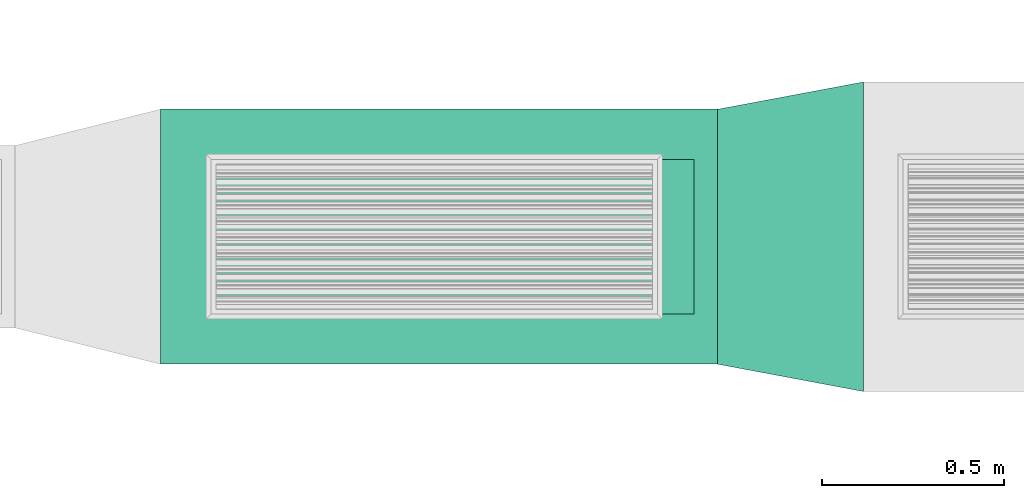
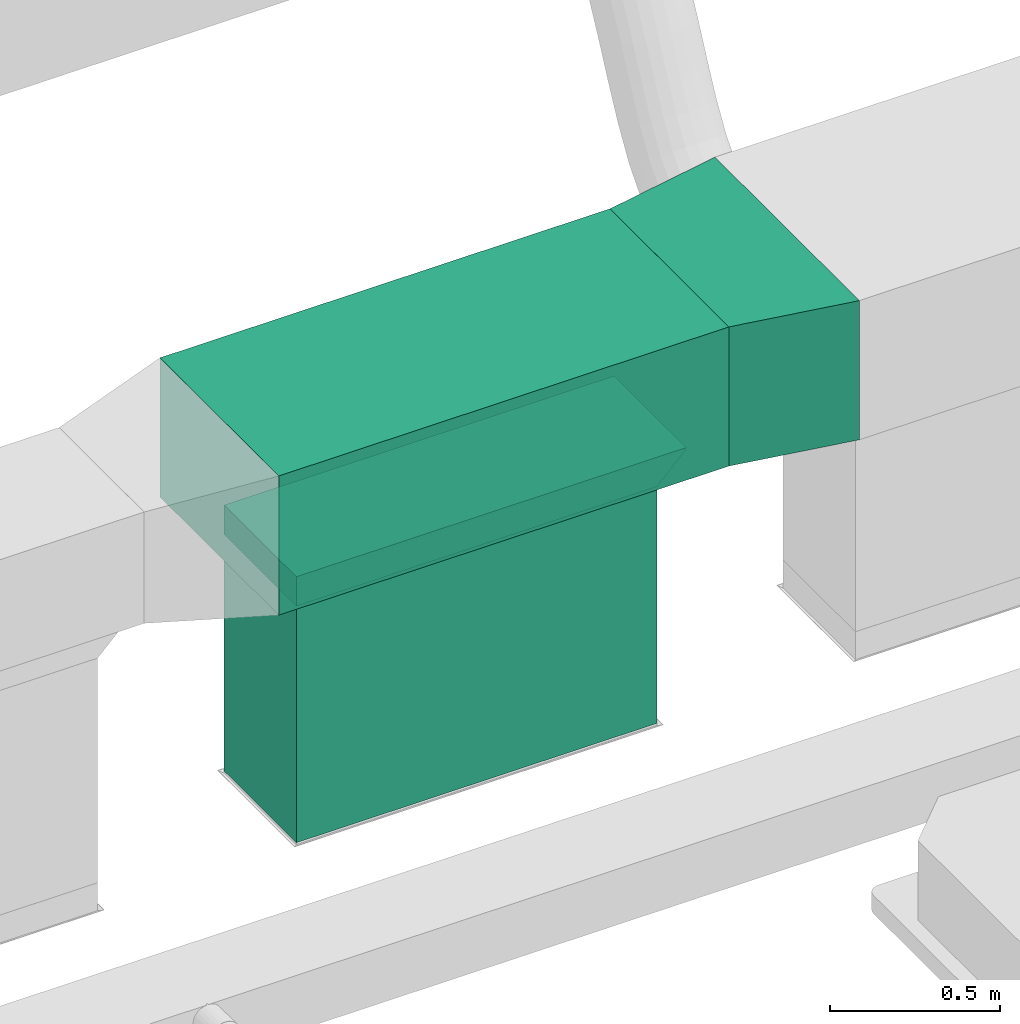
# One storey, part 5 of 60: 2 flow fittings, 2 flow segments.
"""IFC2X3 building model written with IfcOpenShell, lengths in millimetres."""

import ifcopenshell
import ifcopenshell.guid

model = None  # the IFC model being written
_history = None  # IfcOwnerHistory: only IFC2X3 demands one
_inside = {}  # id of a spatial element -> (the spatial element, [elements in it])
_under = {}  # id of a project, library or spatial element -> (it, [spatial elements below it])
_declared = {}  # id of a project -> (the project, [libraries it declares])
_typed = {}  # id of a type object -> (the type object, [elements of that type])
_made_of = {}  # id of a material, layer set ... -> (it, [elements and type objects made of it])


def new_model(schema):
    """Start an empty IFC model of exactly this schema.

    Asked for "IFC4X3", IfcOpenShell would pick the latest addendum, in which some entities
    have other attributes; the version numbers below select the first issue.
    IFC2X3 requires an IfcOwnerHistory on every rooted entity: one is made here for all.
    """
    global model, _history
    if schema == "IFC4X3":
        model = ifcopenshell.file(schema_version=(4, 3, 0, 0))
    else:
        model = ifcopenshell.file(schema=schema)
    _inside.clear()
    _under.clear()
    _declared.clear()
    _typed.clear()
    _made_of.clear()
    _history = None
    if model.schema == "IFC2X3":
        org = make("IfcOrganization", Name="unknown")
        user = make(
            "IfcPersonAndOrganization",
            ThePerson=make("IfcPerson", FamilyName="unknown"),
            TheOrganization=org,
        )
        app = make(
            "IfcApplication",
            ApplicationDeveloper=org,
            Version="unknown",
            ApplicationFullName="unknown",
            ApplicationIdentifier="unknown",
        )
        _history = make(
            "IfcOwnerHistory",
            OwningUser=user,
            OwningApplication=app,
            ChangeAction="ADDED",
            CreationDate=0,
        )
    return model


def make(cls, **values):
    """One entity of the class cls with the attributes given. An attribute that is None is left unset."""
    return model.create_entity(
        cls, **{name: value for name, value in values.items() if value is not None}
    )


def entity(cls, *values):
    """Any entity or typed value of the class cls, its attributes in the order of the schema. None: left unset."""
    e = model.create_entity(cls)
    for i, value in enumerate(values):
        if value is not None:
            e[i] = value
    return e


def rooted(cls, **values):
    """An entity with a GlobalId (a new one), such as an element, a storey or a relation."""
    return make(cls, GlobalId=ifcopenshell.guid.new(), OwnerHistory=_history, **values)


def si_unit(unit_type, name, prefix=None):
    """IfcSIUnit, for example si_unit("LENGTHUNIT", "METRE", prefix="MILLI")."""
    return make("IfcSIUnit", UnitType=unit_type, Prefix=prefix, Name=name)


def converted_unit(unit_type, name, factor, base, dimensions=None, offset=None):
    """IfcConversionBasedUnit, such as the inch: factor (a typed value) times the base unit."""
    return make(
        "IfcConversionBasedUnit"
        if offset is None
        else "IfcConversionBasedUnitWithOffset",
        ConversionOffset=offset,
        Dimensions=None
        if dimensions is None
        else entity("IfcDimensionalExponents", *dimensions),
        UnitType=unit_type,
        Name=name,
        ConversionFactor=make(
            "IfcMeasureWithUnit", ValueComponent=factor, UnitComponent=base
        ),
    )


def derived_unit(unit_type, elements):
    """IfcDerivedUnit: a product of units, each with its exponent."""
    return make(
        "IfcDerivedUnit",
        Elements=[
            make("IfcDerivedUnitElement", Unit=unit, Exponent=power)
            for unit, power in elements
        ],
        UnitType=unit_type,
    )


def assignment(units):
    """IfcUnitAssignment: the units of a project."""
    return None if units is None else make("IfcUnitAssignment", Units=units)


def point(xyz):
    """IfcCartesianPoint."""
    return None if xyz is None else make("IfcCartesianPoint", Coordinates=xyz)


def direction(xyz):
    """IfcDirection."""
    return None if xyz is None else make("IfcDirection", DirectionRatios=xyz)


def frame(location, z_axis=None, x_axis=None):
    """IfcAxis2Placement3D, a coordinate frame: its origin and axes. An axis left out is left unset."""
    return make(
        "IfcAxis2Placement3D",
        Location=point(location),
        Axis=direction(z_axis),
        RefDirection=direction(x_axis),
    )


def frame_2d(location, x_axis=None):
    """IfcAxis2Placement2D, a coordinate frame in the plane: its origin and x axis."""
    return make(
        "IfcAxis2Placement2D", Location=point(location), RefDirection=direction(x_axis)
    )


def origin():
    """The frame at (0, 0, 0) with its axes left unset."""
    return frame((0.0, 0.0, 0.0))


def origin_2d_with_axis():
    """The frame at (0, 0) in the plane with the x axis (1, 0) written out."""
    return frame_2d((0.0, 0.0), x_axis=(1.0, 0.0))


def place(relative_to, where):
    """IfcLocalPlacement: puts the frame where relative to a parent placement (None: the world)."""
    return make(
        "IfcLocalPlacement", PlacementRelTo=relative_to, RelativePlacement=where
    )


def context(
    kind, dimensions, precision=None, world=None, true_north=None, identifier=None
):
    """IfcGeometricRepresentationContext, for example the 3D "Model" context."""
    return make(
        "IfcGeometricRepresentationContext",
        ContextIdentifier=identifier,
        ContextType=kind,
        CoordinateSpaceDimension=dimensions,
        Precision=precision,
        WorldCoordinateSystem=world,
        TrueNorth=true_north,
    )


def subcontext(parent, identifier, kind, view, scale=None):
    """IfcGeometricRepresentationSubContext, for example "Body" below "Model"."""
    return make(
        "IfcGeometricRepresentationSubContext",
        ContextIdentifier=identifier,
        ContextType=kind,
        ParentContext=parent,
        TargetScale=scale,
        TargetView=view,
    )


def project(units=None, contexts=None):
    """IfcProject with its units and contexts."""
    return rooted(
        "IfcProject",
        Name="project",
        RepresentationContexts=contexts,
        UnitsInContext=assignment(units),
    )


def spatial(cls, under=None, at=None, **own):
    """A site, building, storey or space (cls), placed at a placement, below another one or the project."""
    s = rooted(cls, ObjectPlacement=at, **own)
    if under is not None:
        _under.setdefault(under.id(), (under, []))[1].append(s)
    return s


def polyline(points):
    """IfcPolyline through the points."""
    return make("IfcPolyline", Points=[point(p) for p in points])


def profile(cls, at=None, kind="AREA", **sizes):
    """A parametric profile (cls). Its sizes go by their IFC names, for example OverallWidth=200.0."""
    return make(cls, ProfileType=kind, Position=at, **sizes)


def rectangle(**sizes):
    """IfcRectangleProfileDef."""
    return profile("IfcRectangleProfileDef", **sizes)


def outline(outer, holes=None, kind="AREA"):
    """IfcArbitraryClosedProfileDef: a profile drawn as a closed curve; with holes, ...WithVoids."""
    if holes is None:
        return make("IfcArbitraryClosedProfileDef", ProfileType=kind, OuterCurve=outer)
    return make(
        "IfcArbitraryProfileDefWithVoids",
        ProfileType=kind,
        OuterCurve=outer,
        InnerCurves=holes,
    )


def extrude(swept, where, along, depth):
    """IfcExtrudedAreaSolid: the profile swept, set in the frame where, extruded along a direction by depth."""
    return make(
        "IfcExtrudedAreaSolid",
        SweptArea=swept,
        Position=where,
        ExtrudedDirection=direction(along),
        Depth=depth,
    )


def shape(context_of_items, identifier, shape_type, items):
    """IfcShapeRepresentation: the items that make up one representation, for example the "Body"."""
    return make(
        "IfcShapeRepresentation",
        ContextOfItems=context_of_items,
        RepresentationIdentifier=identifier,
        RepresentationType=shape_type,
        Items=items,
    )


def source(mapping_origin, context_of_items, identifier, shape_type, items):
    """IfcRepresentationMap: a shape defined once, which mapped items show again and again."""
    return make(
        "IfcRepresentationMap",
        MappingOrigin=mapping_origin,
        MappedRepresentation=shape(context_of_items, identifier, shape_type, items),
    )


def transform(
    local_origin,
    x_axis=None,
    y_axis=None,
    z_axis=None,
    scale=None,
    scale2=None,
    scale3=None,
    uniform=True,
):
    """IfcCartesianTransformationOperator3D, or its non-uniform kind. x_axis, y_axis, z_axis: its Axis1, 2, 3."""
    if uniform:
        return make(
            "IfcCartesianTransformationOperator3D",
            Axis1=direction(x_axis),
            Axis2=direction(y_axis),
            LocalOrigin=point(local_origin),
            Scale=scale,
            Axis3=direction(z_axis),
        )
    return make(
        "IfcCartesianTransformationOperator3DnonUniform",
        Axis1=direction(x_axis),
        Axis2=direction(y_axis),
        LocalOrigin=point(local_origin),
        Scale=scale,
        Axis3=direction(z_axis),
        Scale2=scale2,
        Scale3=scale3,
    )


def mapped(mapping_source, mapping_target):
    """IfcMappedItem: shows the shape of a source again, moved by a transform."""
    return make(
        "IfcMappedItem", MappingSource=mapping_source, MappingTarget=mapping_target
    )


def material(Name=None, Category=None):
    """IfcMaterial."""
    return make("IfcMaterial", Name=Name, Category=Category)


def made_of(thing, what):
    """Note that an element or type object is made of a material, layer set ...; save() writes the relation."""
    if what is not None:
        _made_of.setdefault(what.id(), (what, []))[1].append(thing)
    return thing


def type_object(cls, material=None, **own):
    """A type object (cls), such as IfcWallType, which elements share."""
    return made_of(rooted(cls, **own), material)


def type_shapes(of_type, sources):
    """Give a type object the sources (RepresentationMaps) that its elements show as mapped items."""
    of_type.RepresentationMaps = sources


def element(
    cls,
    number,
    at=None,
    inside=None,
    cuts=None,
    type_object=None,
    material=None,
    context=None,
    identifier="Body",
    shape_type=None,
    held_by="IfcProductDefinitionShape",
    body=None,
    shapes=None,
    **own,
):
    """One element of the class cls, such as IfcWall. Its Tag is "e" and its number.

    at: its placement. inside: the storey or other place that contains it. cuts: it is an
    opening in that element (IfcRelVoidsElement). A single representation is given by context,
    identifier, shape_type and body (its items); several are given by shapes. held_by: the class
    of the entity that holds the representations. save() writes the other relations.
    """
    e = rooted(cls, Tag="e%d" % number, ObjectPlacement=at, **own)
    if body is not None:
        shapes = [shape(context, identifier, shape_type, body)]
    if shapes is not None:
        e.Representation = make(held_by, Representations=shapes)
    if inside is not None:
        _inside.setdefault(inside.id(), (inside, []))[1].append(e)
    if cuts is not None:
        rooted(
            "IfcRelVoidsElement", RelatingBuildingElement=cuts, RelatedOpeningElement=e
        )
    if type_object is not None:
        _typed.setdefault(type_object.id(), (type_object, []))[1].append(e)
    return made_of(e, material)


def aggregate(whole, parts):
    """IfcRelAggregates: a whole, such as a stair, and the parts it consists of."""
    return rooted("IfcRelAggregates", RelatingObject=whole, RelatedObjects=parts)


def save(model, path):
    """Write the relations noted so far, then the file.

    IfcRelAggregates (storeys below a building ...), IfcRelContainedInSpatialStructure (elements
    in a storey), IfcRelDefinesByType, IfcRelAssociatesMaterial and IfcRelDeclares: one each for
    every whole, place, type object, material and project.
    """
    for whole, parts in _under.values():
        aggregate(whole, parts)
    for where, things in _inside.values():
        rooted(
            "IfcRelContainedInSpatialStructure",
            RelatedElements=things,
            RelatingStructure=where,
        )
    for kind, things in _typed.values():
        rooted("IfcRelDefinesByType", RelatedObjects=things, RelatingType=kind)
    for what, things in _made_of.values():
        rooted("IfcRelAssociatesMaterial", RelatedObjects=things, RelatingMaterial=what)
    for by, libraries in _declared.values():
        rooted("IfcRelDeclares", RelatingContext=by, RelatedDefinitions=libraries)
    model.write(path)


model = new_model("IFC2X3")

# Units and contexts
model_context = context("Model", 3, precision=0.01, world=origin(), true_north=direction((6.123233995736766e-17, 1.0)))
body_context = subcontext(model_context, "Body", "Model", "MODEL_VIEW")
ifc_project = project(units=[si_unit("LENGTHUNIT", "METRE", prefix="MILLI"), converted_unit("PLANEANGLEUNIT", "DEGREE", entity("IfcPlaneAngleMeasure", 0.017453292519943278), si_unit("PLANEANGLEUNIT", "RADIAN"), dimensions=[0, 0, 0, 0, 0, 0, 0]), si_unit("AREAUNIT", "SQUARE_METRE"), derived_unit("THERMALTRANSMITTANCEUNIT", [(si_unit("MASSUNIT", "GRAM", prefix="KILO"), 1), (si_unit("THERMODYNAMICTEMPERATUREUNIT", "KELVIN"), -1), (si_unit("TIMEUNIT", "SECOND"), -3)])], contexts=[model_context])

# Site, building, storey
site_placement = place(None, origin())
site = spatial("IfcSite", under=ifc_project, at=site_placement, Name="Default", CompositionType="ELEMENT")
building_placement = place(site_placement, origin())
building = spatial("IfcBuilding", under=site, at=building_placement, Name="Praça Pedro II, 1301 - Centro (Sul), Teresina - PI, 64001-100", CompositionType="ELEMENT")
storey_placement = place(building_placement, frame((0.0, 0.0, 6040.0)))
storey = spatial("IfcBuildingStorey", under=building, at=storey_placement, Name="2PAV", CompositionType="ELEMENT", Elevation=6040.0)

# Flow segments
duct_segment_type = type_object("IfcDuctSegmentType", Name="Duto retangular:Raios cotovelos / torneiras", PredefinedType="NOTDEFINED")
flow_segment_1_placement = place(storey_placement, origin())
element("IfcFlowSegment", 1, at=flow_segment_1_placement, inside=storey, type_object=duct_segment_type, Name="Duto retangular:Raios cotovelos / torneiras", ObjectType="Duto retangular:Raios cotovelos / torneiras", context=body_context, shape_type="SweptSolid", body=[
    extrude(rectangle(XDim=1529.4973559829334, YDim=699.9999999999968, at=origin_2d_with_axis()), frame((28162.966916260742, -67411.94163590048, 3250.0)), (0.0, 0.0, 1.0), 500.00000000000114),
])
flow_segment_2_placement = place(storey_placement, origin())
element("IfcFlowSegment", 2, at=flow_segment_2_placement, inside=storey, type_object=duct_segment_type, Name="Duto retangular:Raios cotovelos / torneiras", ObjectType="Duto retangular:Raios cotovelos / torneiras", context=body_context, shape_type="SweptSolid", body=[
    extrude(rectangle(XDim=425.00000000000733, YDim=1224.9999999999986, at=origin_2d_with_axis()), frame((28149.517499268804, -67411.94163590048, 2300.0), z_axis=(0.0, 0.0, 1.0), x_axis=(0.0, -1.0, 0.0)), (0.0, 0.0, 1.0), 849.9999999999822),
])

# Flow fittings
ifc_material = material(Name="<Unnamed>")
duct_fitting_type_1 = type_object("IfcDuctFittingType", Name="M_Rectangular Transition - L:400 mm (L)", PredefinedType="NOTDEFINED", material=ifc_material)
shared_shape_1 = source(origin(), body_context, "Body", "SweptSolid", [
    extrude(outline(polyline([(-132.07345011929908, -380.8629724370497), (274.89706478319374, -380.8629724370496), (118.25180999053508, 454.57838645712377), (-261.0754246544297, 307.1475584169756), (-132.07345011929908, -380.8629724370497)])), frame((200.0, 0.0, -250.0), z_axis=(0.0, 0.0, 1.0), x_axis=(0.9828721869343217, -0.18428853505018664, 0.0)), (0.0, 0.0, 1.0), 500.00000000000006),
])
type_shapes(duct_fitting_type_1, [shared_shape_1])
flow_fitting_1_placement = place(storey_placement, frame((28927.7155942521, -67411.94163590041, 3500.0)))
element("IfcFlowFitting", 3, at=flow_fitting_1_placement, inside=storey, type_object=duct_fitting_type_1, material=ifc_material, Name="M_Rectangular Transition - L:400 mm (L)", ObjectType="M_Rectangular Transition - L:400 mm (L)", context=body_context, shape_type="MappedRepresentation", body=[
    mapped(shared_shape_1, transform((0.0, 0.0, 0.0), scale=1.0)),
])
duct_fitting_type_2 = type_object("IfcDuctFittingType", Name="M_Rectangular Tap - Beveled:Standard", PredefinedType="NOTDEFINED", material=ifc_material)
shared_shape_2 = source(origin(), body_context, "Body", "SweptSolid", [
    extrude(outline(polyline([(-775.0, -62.438400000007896), (450.0, -62.438400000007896), (550.0, 37.56159999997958), (550.0, 43.6576000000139), (-775.0, 43.65760000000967), (-775.0, -62.438400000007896)])), frame((37.56159999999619, 162.50000000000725, -212.49999999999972), z_axis=(0.0, 0.0, 1.0), x_axis=(0.0, 1.0, 0.0)), (0.0, 0.0, 1.0), 424.99999999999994),
])
type_shapes(duct_fitting_type_2, [shared_shape_2])
flow_fitting_2_placement = place(storey_placement, frame((28149.517499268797, -67411.94163590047, 3250.0), z_axis=(0.0, -1.0, 0.0), x_axis=(0.0, 0.0, -1.0)))
element("IfcFlowFitting", 4, at=flow_fitting_2_placement, inside=storey, type_object=duct_fitting_type_2, material=ifc_material, Name="M_Rectangular Tap - Beveled:Standard", ObjectType="M_Rectangular Tap - Beveled:Standard", context=body_context, shape_type="MappedRepresentation", body=[
    mapped(shared_shape_2, transform((0.0, 0.0, 0.0), scale=1.0)),
])

save(model, "model.ifc")
